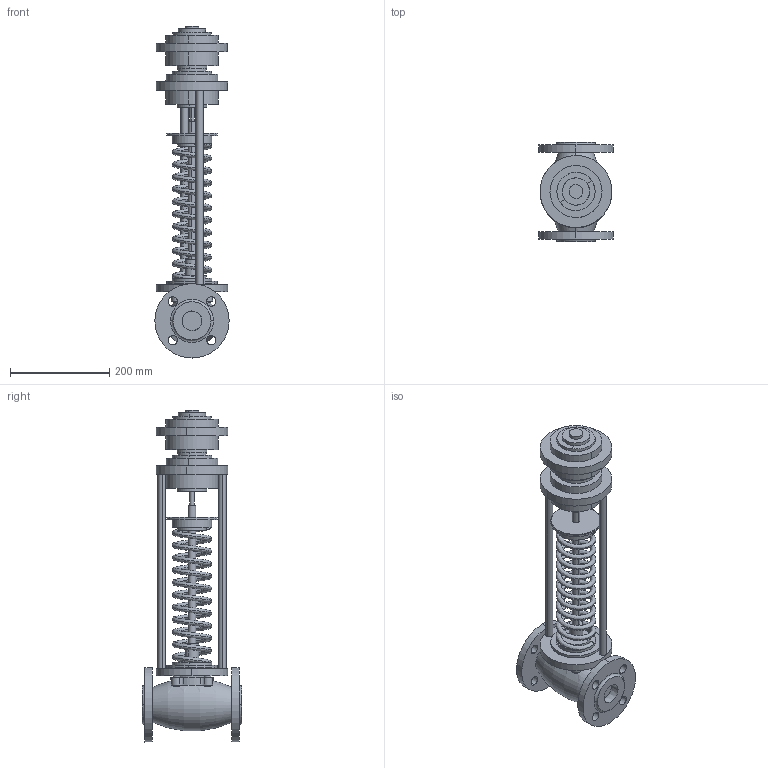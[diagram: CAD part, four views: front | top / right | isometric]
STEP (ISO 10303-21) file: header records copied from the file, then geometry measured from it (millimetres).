
FILE_DESCRIPTION (( 'STEP AP214' ), '1' );
FILE_NAME ('RDT-H-RDT-PH DN40 (0.1).STEP', '2025-12-12T11:37:20', ( '' ), ( '' ), 'SwSTEP 2.0', 'SolidWorks 2023', '' );
FILE_SCHEMA (( 'AUTOMOTIVE_DESIGN' ));
Length unit declared in the file: millimetre
Products named in the file (1): RDT-H-RDT-PH DN40 (0.1)
Bounding box: 150 x 200 x 670 mm (x, y, z)
Volume: 4009697.9 mm3; surface area: 459095.9 mm2
Topology: 1 solids, 3 shells, 180 faces, 421 edges, 274 vertices
Faces by surface type: cylinder 98, plane 49, cone 20, torus 9, bspline 4
Entity records: 11917 total; most frequent: CARTESIAN_POINT 7581, DIRECTION 971, ORIENTED_EDGE 838, AXIS2_PLACEMENT_3D 422, EDGE_CURVE 419, VERTEX_POINT 273, CIRCLE 245, EDGE_LOOP 240
